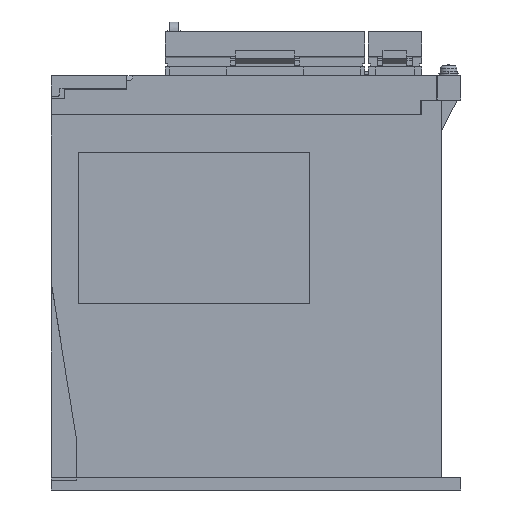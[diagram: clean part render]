
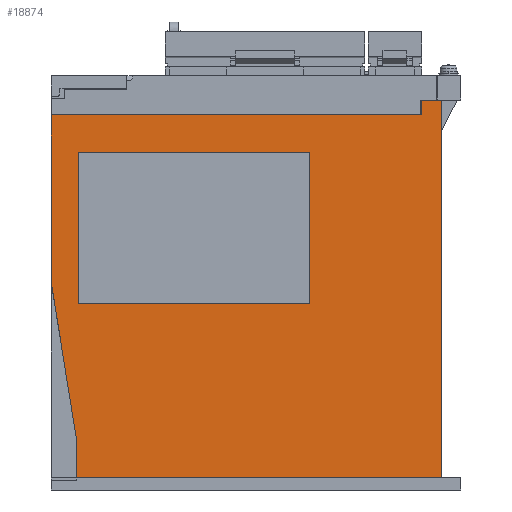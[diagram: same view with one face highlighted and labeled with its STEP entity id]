
A CAD part, left-side view. The second image highlights one B-rep face of the part: STEP entity #18874.
In plain terms, the highlighted planar face has unit normal (-1, 0, 0).
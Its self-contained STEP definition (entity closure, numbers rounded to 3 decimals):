
#1090=DIRECTION('',(0.,-1.,0.));
#1091=VECTOR('',#1090,151.7);
#1092=CARTESIAN_POINT('',(0.,160.,153.9));
#1093=LINE('',#1092,#1091);
#1094=DIRECTION('',(0.,0.,1.));
#1095=VECTOR('',#1094,5.9);
#1096=CARTESIAN_POINT('',(0.,8.3,153.9));
#1097=LINE('',#1096,#1095);
#1098=DIRECTION('',(0.,-1.,0.));
#1099=VECTOR('',#1098,8.3);
#1100=CARTESIAN_POINT('',(0.,8.3,159.8));
#1101=LINE('',#1100,#1099);
#1102=DIRECTION('',(0.,1.,0.));
#1103=VECTOR('',#1102,149.5);
#1104=CARTESIAN_POINT('',(0.,0.,5.2));
#1105=LINE('',#1104,#1103);
#1106=DIRECTION('',(0.,0.,1.));
#1107=VECTOR('',#1106,14.8);
#1108=CARTESIAN_POINT('',(0.,149.5,5.2));
#1109=LINE('',#1108,#1107);
#1110=DIRECTION('',(0.,0.159,0.987));
#1111=VECTOR('',#1110,65.843);
#1112=CARTESIAN_POINT('',(0.,149.5,20.));
#1113=LINE('',#1112,#1111);
#1114=DIRECTION('',(0.,-1.,0.));
#1115=VECTOR('',#1114,95.);
#1116=CARTESIAN_POINT('',(0.,149.,76.5));
#1117=LINE('',#1116,#1115);
#1314=DIRECTION('',(0.,0.,-1.));
#1315=VECTOR('',#1314,68.9);
#1316=CARTESIAN_POINT('',(0.,160.,153.9));
#1317=LINE('',#1316,#1315);
#12220=DIRECTION('',(0.,0.,1.));
#12221=VECTOR('',#12220,154.6);
#12222=CARTESIAN_POINT('',(0.,0.,5.2));
#12223=LINE('',#12222,#12221);
#12805=DIRECTION('',(0.,0.,1.));
#12806=VECTOR('',#12805,62.);
#12807=CARTESIAN_POINT('',(0.,149.,76.5));
#12808=LINE('',#12807,#12806);
#12813=DIRECTION('',(0.,-1.,0.));
#12814=VECTOR('',#12813,95.);
#12815=CARTESIAN_POINT('',(0.,149.,138.5));
#12816=LINE('',#12815,#12814);
#12821=DIRECTION('',(0.,0.,-1.));
#12822=VECTOR('',#12821,62.);
#12823=CARTESIAN_POINT('',(0.,54.,138.5));
#12824=LINE('',#12823,#12822);
#13709=CARTESIAN_POINT('',(0.,8.3,159.8));
#13710=CARTESIAN_POINT('',(0.,0.,159.8));
#13711=VERTEX_POINT('',#13709);
#13712=VERTEX_POINT('',#13710);
#13715=CARTESIAN_POINT('',(0.,160.,153.9));
#13716=CARTESIAN_POINT('',(0.,8.3,153.9));
#13717=VERTEX_POINT('',#13715);
#13718=VERTEX_POINT('',#13716);
#13719=CARTESIAN_POINT('',(0.,0.,5.2));
#13720=VERTEX_POINT('',#13719);
#13721=CARTESIAN_POINT('',(0.,149.5,5.2));
#13722=VERTEX_POINT('',#13721);
#13723=CARTESIAN_POINT('',(0.,149.5,20.));
#13724=VERTEX_POINT('',#13723);
#13725=CARTESIAN_POINT('',(0.,160.,85.));
#13726=VERTEX_POINT('',#13725);
#13727=CARTESIAN_POINT('',(0.,149.,76.5));
#13728=CARTESIAN_POINT('',(0.,54.,76.5));
#13729=VERTEX_POINT('',#13727);
#13730=VERTEX_POINT('',#13728);
#13731=CARTESIAN_POINT('',(0.,54.,138.5));
#13732=VERTEX_POINT('',#13731);
#13733=CARTESIAN_POINT('',(0.,149.,138.5));
#13734=VERTEX_POINT('',#13733);
#18842=CARTESIAN_POINT('',(0.,160.,0.));
#18843=DIRECTION('',(-1.,0.,0.));
#18844=DIRECTION('',(0.,-1.,0.));
#18845=AXIS2_PLACEMENT_3D('',#18842,#18843,#18844);
#18846=PLANE('',#18845);
#18848=ORIENTED_EDGE('',*,*,#18847,.T.);
#18850=ORIENTED_EDGE('',*,*,#18849,.T.);
#18851=ORIENTED_EDGE('',*,*,#18822,.T.);
#18853=ORIENTED_EDGE('',*,*,#18852,.F.);
#18855=ORIENTED_EDGE('',*,*,#18854,.T.);
#18857=ORIENTED_EDGE('',*,*,#18856,.T.);
#18859=ORIENTED_EDGE('',*,*,#18858,.T.);
#18861=ORIENTED_EDGE('',*,*,#18860,.F.);
#18862=EDGE_LOOP('',(#18848,#18850,#18851,#18853,#18855,#18857,#18859,#18861));
#18863=FACE_OUTER_BOUND('',#18862,.F.);
#18865=ORIENTED_EDGE('',*,*,#18864,.T.);
#18867=ORIENTED_EDGE('',*,*,#18866,.F.);
#18869=ORIENTED_EDGE('',*,*,#18868,.F.);
#18871=ORIENTED_EDGE('',*,*,#18870,.F.);
#18872=EDGE_LOOP('',(#18865,#18867,#18869,#18871));
#18873=FACE_BOUND('',#18872,.F.);
#18822=EDGE_CURVE('',#13711,#13712,#1101,.T.);
#18847=EDGE_CURVE('',#13717,#13718,#1093,.T.);
#18849=EDGE_CURVE('',#13718,#13711,#1097,.T.);
#18852=EDGE_CURVE('',#13720,#13712,#12223,.T.);
#18854=EDGE_CURVE('',#13720,#13722,#1105,.T.);
#18856=EDGE_CURVE('',#13722,#13724,#1109,.T.);
#18858=EDGE_CURVE('',#13724,#13726,#1113,.T.);
#18860=EDGE_CURVE('',#13717,#13726,#1317,.T.);
#18864=EDGE_CURVE('',#13729,#13730,#1117,.T.);
#18866=EDGE_CURVE('',#13732,#13730,#12824,.T.);
#18868=EDGE_CURVE('',#13734,#13732,#12816,.T.);
#18870=EDGE_CURVE('',#13729,#13734,#12808,.T.);
#18874=ADVANCED_FACE('',(#18863,#18873),#18846,.T.);
